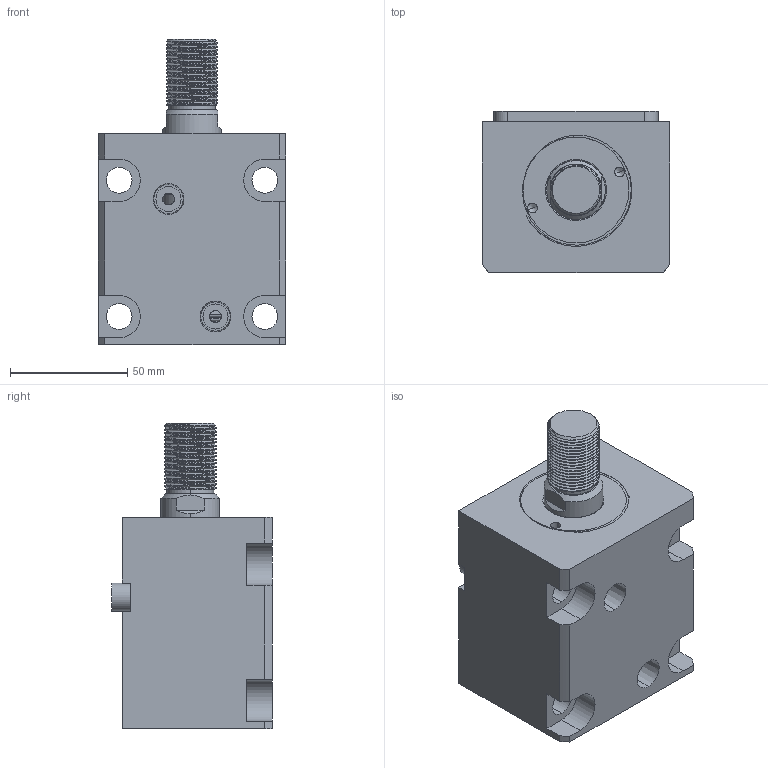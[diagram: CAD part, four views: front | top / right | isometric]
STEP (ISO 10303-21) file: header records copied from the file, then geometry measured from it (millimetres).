
FILE_DESCRIPTION (( 'STEP AP214' ), '1' );
FILE_NAME ('chtb-la40x35w_asm.STEP', '2018-06-02T07:25:38', ( 'Windows' ), ( 'Microsoft' ), 'SwSTEP 2.0', 'SolidWorks 2015', '' );
FILE_SCHEMA (( 'AUTOMOTIVE_DESIGN' ));
Length unit declared in the file: millimetre
Products named in the file (5): chtb-la40x35w_asm; CHTB-SD40QG; CHTB-LA40PJ; CHTB-SD40X35WHSG; CHTB-LA40X35NBT
Assembly tree (4 placements, depth 2):
  chtb-la40x35w_asm
    CHTB-LA40X35NBT
    CHTB-SD40X35WHSG
    CHTB-LA40PJ
    CHTB-SD40QG
Bounding box: 80 x 68.5 x 130 mm (x, y, z)
Volume: 412537.8 mm3; surface area: 84088.8 mm2
Topology: 4 solids, 5 shells, 205 faces, 559 edges, 373 vertices
Faces by surface type: cylinder 111, plane 52, bspline 16, cone 14, torus 12
Entity records: 13775 total; most frequent: CARTESIAN_POINT 8706, ORIENTED_EDGE 1106, DIRECTION 926, EDGE_CURVE 553, VERTEX_POINT 373, AXIS2_PLACEMENT_3D 363, EDGE_LOOP 234, FACE_OUTER_BOUND 205
